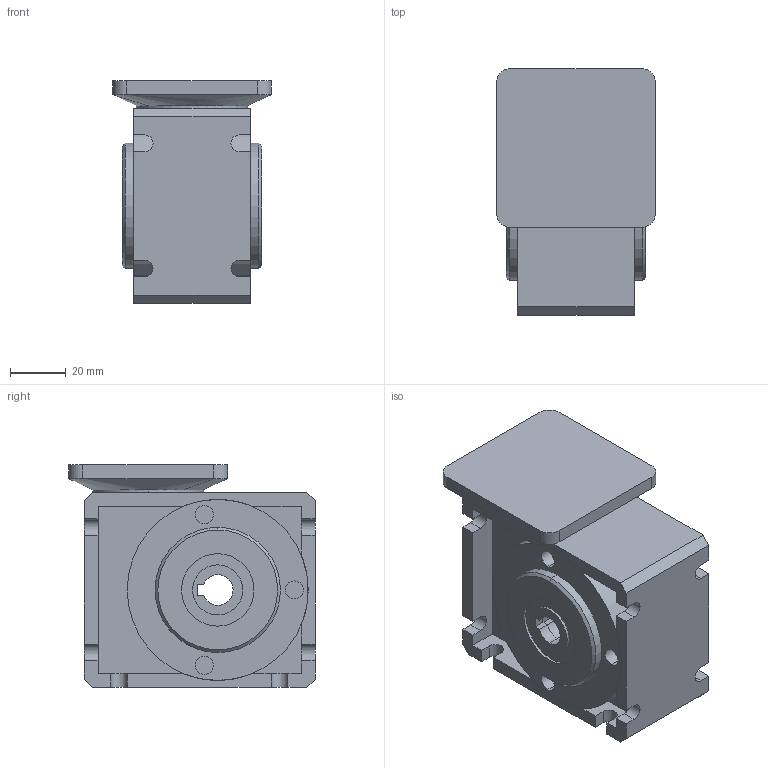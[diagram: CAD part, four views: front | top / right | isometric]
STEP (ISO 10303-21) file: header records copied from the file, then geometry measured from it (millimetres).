
FILE_DESCRIPTION (( 'STEP AP203' ), '1' );
FILE_NAME ('RV025.STEP', '2019-06-27T07:12:33', ( 'User' ), ( 'www.dadighost.com' ), 'SwSTEP 2.0', 'SolidWorks 2014', '' );
FILE_SCHEMA (( 'CONFIG_CONTROL_DESIGN' ));
Length unit declared in the file: millimetre
Products named in the file (1): RV025
Bounding box: 57 x 88.5 x 80 mm (x, y, z)
Volume: 248718.5 mm3; surface area: 67708.7 mm2
Topology: 6 solids, 6 shells, 171 faces, 466 edges, 311 vertices
Faces by surface type: plane 94, cylinder 71, cone 4, bspline 2
Entity records: 5900 total; most frequent: CARTESIAN_POINT 1319, DIRECTION 949, ORIENTED_EDGE 932, EDGE_CURVE 466, AXIS2_PLACEMENT_3D 319, VERTEX_POINT 311, VECTOR 311, LINE 311
